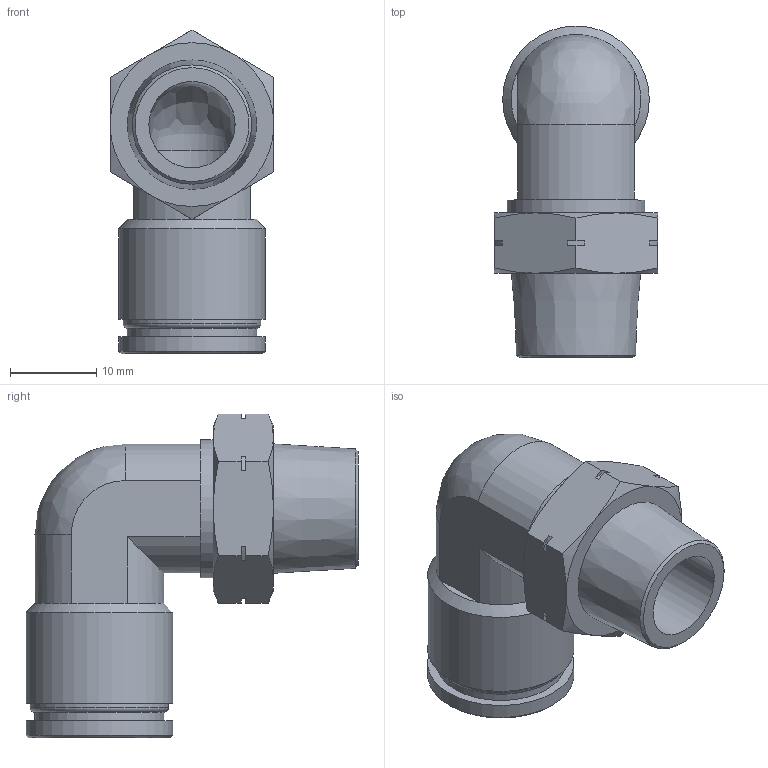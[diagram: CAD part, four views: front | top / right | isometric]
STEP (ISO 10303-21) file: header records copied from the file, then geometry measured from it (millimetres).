
FILE_DESCRIPTION(/* description */ (''),/* implementation_level */ '2;1');
FILE_NAME(/* name */ 'LXH21 0012 N3.stp',/* time_stamp */ '2026-05-01T13:08:40+02:00',/* author */ ('freju'),/* organization */ (''),/* preprocessor_version */ 'ST-DEVELOPER v20.1',/* originating_system */ 'Autodesk Inventor 2026',/* authorisation */ '');
FILE_SCHEMA (('AUTOMOTIVE_DESIGN { 1 0 10303 214 3 1 1 }'));
Length unit declared in the file: millimetre
Products named in the file (1): LXH21 0012 N3
Bounding box: 19 x 38.5 x 37.57 mm (x, y, z)
Volume: 6078.2 mm3; surface area: 5215.4 mm2
Topology: 1 solids, 1 shells, 67 faces, 162 edges, 101 vertices
Faces by surface type: plane 30, cylinder 18, cone 16, bspline 2, torus 1
Full cylindrical faces by diameter (mm): 10 x2, 12 x1, 15 x1, 16 x2, 17 x2
Entity records: 1991 total; most frequent: CARTESIAN_POINT 411, DIRECTION 332, ORIENTED_EDGE 320, EDGE_CURVE 160, AXIS2_PLACEMENT_3D 130, VERTEX_POINT 101, EDGE_LOOP 75, LINE 72
